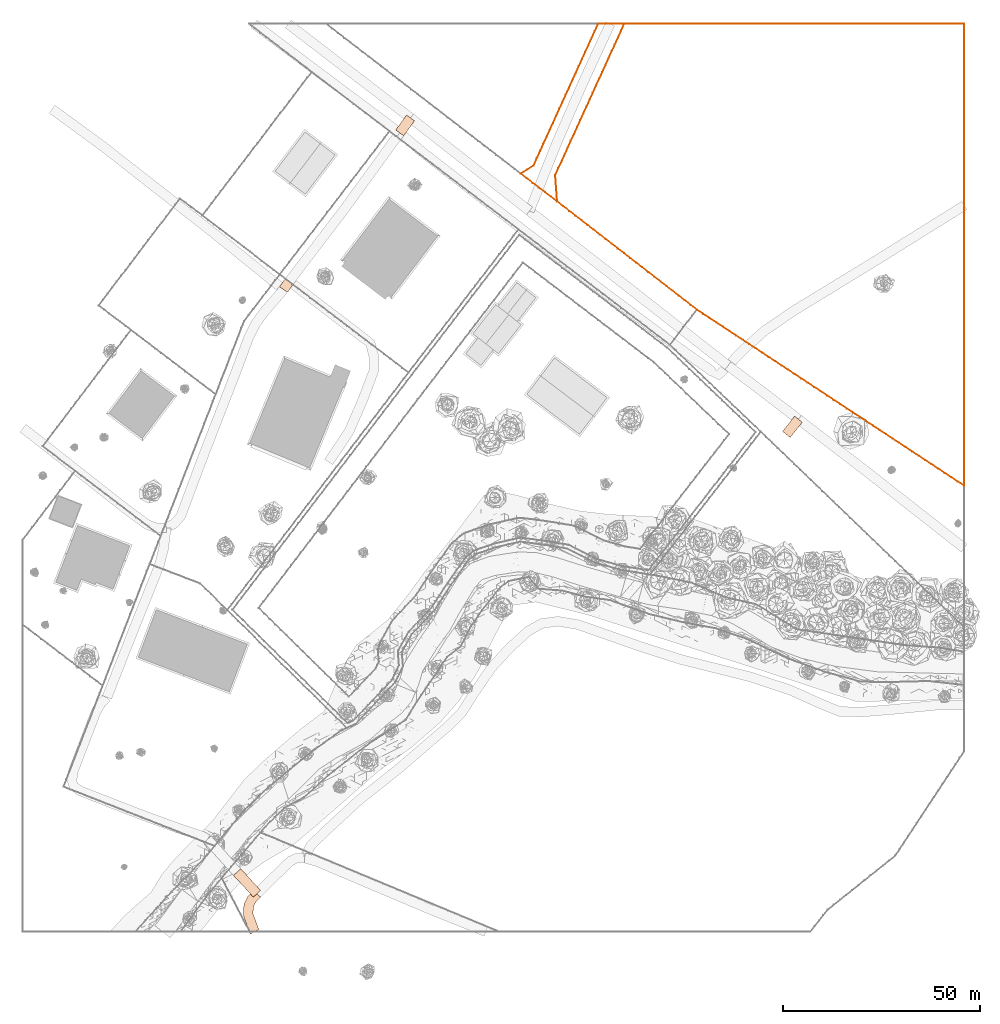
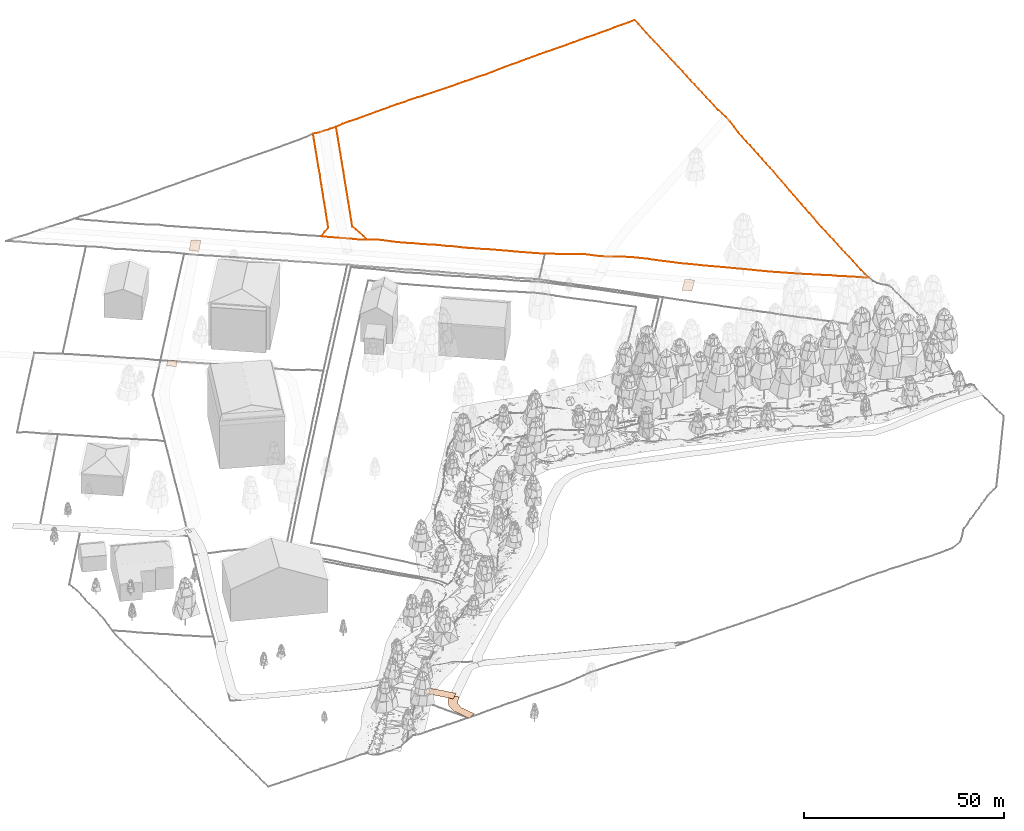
# Not in any storey, part 18 of 88: 7 geographic elements.
"""IFC4 model written with IfcOpenShell, lengths in metres."""

from ifc_helpers import new_model, entity, si_unit, origin_with_axes, place, context, subcontext, project, spatial, triangles, element, save


model = new_model("IFC4")

# Units and contexts
model_context = context("Model", 3, precision=1e-05, world=origin_with_axes())
body_context = subcontext(model_context, "Body", "Model", "MODEL_VIEW")
ifc_project = project(units=[si_unit("LENGTHUNIT", "METRE"), si_unit("AREAUNIT", "SQUARE_METRE"), si_unit("VOLUMEUNIT", "CUBIC_METRE"), si_unit("PLANEANGLEUNIT", "RADIAN")], contexts=[model_context])

# Sites
site_1_placement = place(None, origin_with_axes())
site_1 = spatial("IfcSite", under=ifc_project, at=site_1_placement, Name="CH907857693633", CompositionType="ELEMENT")
site_2_placement = place(None, origin_with_axes())
site_2 = spatial("IfcSite", under=site_1, at=site_2_placement, Name="Roads", CompositionType="ELEMENT")

# Geographic elements
geographic_element_1_placement = place(None, origin_with_axes())
element("IfcGeographicElement", 1, at=geographic_element_1_placement, inside=site_2, Name="Road_weg", ObjectType="ROAD", PredefinedType="USERDEFINED", context=body_context, shape_type="Tessellation", body=[
    triangles([(60.2144801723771, 8.79212709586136, 2.79353027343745), (58.9717636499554, 7.46151768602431, 2.7585571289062), (58.4063722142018, 6.37526942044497, 2.7734497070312), (58.3000586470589, 4.5524079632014, 2.79719238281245), (58.9993645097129, 2.70384467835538, 2.78022460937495), (59.755421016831, 0.62254000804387, 2.8263061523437), (59.7828784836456, 0.596204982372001, 2.8263061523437), (58.3775198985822, 10.4878797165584, 2.86665039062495), (56.9302364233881, 8.9044891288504, 2.82014160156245), (55.9716278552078, 6.9427373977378, 2.8191040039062), (55.8259414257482, 4.19359885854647, 2.85004882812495), (56.6496355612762, 1.85016214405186, 2.92426757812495), (57.4165790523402, -0.26053318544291, 2.89045410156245), (57.5855713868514, -0.596204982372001, 2.89045410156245)], [[1, 8, 2], [8, 9, 2], [2, 9, 3], [9, 10, 3], [3, 10, 4], [10, 11, 4], [4, 11, 5], [11, 12, 5], [5, 12, 6], [12, 13, 6], [6, 13, 7], [13, 14, 7]]),
])
geographic_element_2_placement = place(None, origin_with_axes())
element("IfcGeographicElement", 2, at=geographic_element_2_placement, inside=site_2, Name="Road_weg", ObjectType="ROAD", PredefinedType="USERDEFINED", context=body_context, shape_type="Tessellation", body=[
    triangles([(68.5043922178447, 164.080547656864, 8.2528198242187), (67.0543922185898, 161.994547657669, 8.24311523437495), (66.4516078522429, 165.507459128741, 8.2852905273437), (65.0016078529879, 163.421459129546, 8.2282836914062)], [[1, 3, 2], [3, 4, 2]]),
])
geographic_element_3_placement = place(None, origin_with_axes())
element("IfcGeographicElement", 3, at=geographic_element_3_placement, inside=site_2, Name="Road_weg", ObjectType="ROAD", PredefinedType="USERDEFINED", context=body_context, shape_type="Tessellation", body=[
    triangles([(197.459158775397, 129.067732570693, 8.9134643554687), (195.923158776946, 127.137232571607, 8.83503417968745), (194.387158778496, 125.206732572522, 8.95148925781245), (195.502841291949, 130.624274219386, 8.8873413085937), (193.966841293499, 128.693774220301, 8.8282592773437), (192.430841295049, 126.763274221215, 8.9338500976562)], [[1, 4, 2], [4, 5, 2], [2, 5, 3], [5, 6, 3]]),
])
geographic_element_4_placement = place(None, origin_with_axes())
element("IfcGeographicElement", 4, at=geographic_element_4_placement, inside=site_2, Name="Road_weg", ObjectType="ROAD", PredefinedType="USERDEFINED", context=body_context, shape_type="Tessellation", body=[
    triangles([(55.1692311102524, 15.9759790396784, 2.9625366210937), (56.8515644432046, 14.1459790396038, 3.0066040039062), (58.533897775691, 12.3159790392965, 2.9760864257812), (60.2162311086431, 10.485979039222, 2.84248046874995), (53.3287689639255, 14.2840277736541, 2.9447143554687), (55.0111022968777, 12.4540277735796, 2.9758422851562), (56.6934356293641, 10.6240277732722, 2.91840820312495), (58.3757689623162, 8.79402777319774, 2.8355834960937)], [[1, 5, 2], [5, 6, 2], [2, 6, 3], [6, 7, 3], [3, 7, 4], [7, 8, 4]]),
])
geographic_element_5_placement = place(None, origin_with_axes())
element("IfcGeographicElement", 5, at=geographic_element_5_placement, inside=site_2, Name="Road_weg", ObjectType="ROAD", PredefinedType="USERDEFINED", context=body_context, shape_type="Tessellation", body=[
    triangles([(99.2218642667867, 205.461088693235, 9.0283325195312), (97.8448642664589, 203.562588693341, 8.9677856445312), (96.4678642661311, 201.664088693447, 8.9395874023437), (97.1981358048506, 206.928918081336, 9.02961425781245), (95.8211358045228, 205.030418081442, 8.9871948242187), (94.444135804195, 203.131918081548, 8.97395019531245)], [[1, 4, 2], [4, 5, 2], [2, 5, 3], [5, 6, 3]]),
])

# Site
site_3_placement = place(None, origin_with_axes())
site_3 = spatial("IfcSite", under=site_1, at=site_3_placement, Name="Parcels", CompositionType="ELEMENT")

# Geographic elements
geographic_element_6_placement = place(None, origin_with_axes())
element("IfcGeographicElement", 6, at=geographic_element_6_placement, inside=site_3, Name="Parcel_CH345736786927", ObjectType="PARCEL", PredefinedType="USERDEFINED", context=body_context, shape_type="Curve3D", body=[
    entity("IfcIndexedPolyCurve", entity("IfcCartesianPointList3D", [[129.396514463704, 194.126146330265, 9.22297363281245], [130.213796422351, 195.919839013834, 9.31354980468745], [131.031078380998, 197.713531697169, 9.3653686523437], [131.84836033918, 199.507224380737, 9.4121215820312], [132.665642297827, 201.300917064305, 9.7314575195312], [133.482924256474, 203.094609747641, 9.63642578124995], [134.300206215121, 204.888302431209, 9.6823852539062], [135.117488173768, 206.681995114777, 9.72602539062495], [135.934770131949, 208.475687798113, 9.85529785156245], [136.752052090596, 210.269380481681, 9.86372070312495], [137.569334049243, 212.063073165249, 9.98066406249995], [138.386616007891, 213.856765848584, 10.1941040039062], [139.203897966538, 215.650458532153, 10.0755126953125], [140.021179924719, 217.444151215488, 10.064892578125], [140.838461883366, 219.237843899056, 10.01337890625], [141.655743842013, 221.031536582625, 10.209912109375], [142.47302580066, 222.82522926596, 10.1854370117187], [143.290307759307, 224.618921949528, 10.1939819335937], [144.107589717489, 226.412614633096, 10.2465942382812], [144.924871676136, 228.206307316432, 10.1999633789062], [145.742153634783, 230.0, 10.4211547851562], [147.398328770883, 230.0, 10.1325805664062], [149.054503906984, 230.0, 10.1242797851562], [150.710679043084, 230.0, 10.0964477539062], [152.366854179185, 230.0, 10.1820190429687], [151.571793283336, 228.256915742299, 10.1239135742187], [150.776732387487, 226.513831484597, 10.1397827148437], [149.981671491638, 224.770747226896, 10.0703857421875], [149.186610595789, 223.027662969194, 9.99482421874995], [148.39154969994, 221.284578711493, 10.003857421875], [147.596488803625, 219.541494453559, 9.96723632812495], [146.801427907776, 217.798410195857, 9.96088867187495], [146.006367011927, 216.055325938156, 9.9105346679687], [145.211306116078, 214.312241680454, 9.87080078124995], [144.416245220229, 212.569157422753, 9.88703613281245], [143.62118432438, 210.826073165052, 9.7834594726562], [142.826123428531, 209.08298890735, 9.8773315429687], [142.031062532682, 207.339904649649, 9.75446777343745], [141.236001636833, 205.596820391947, 9.72907714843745], [140.440940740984, 203.853736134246, 9.6884887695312], [139.645879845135, 202.110651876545, 9.61140136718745], [138.85081894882, 200.36756761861, 9.65791015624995], [138.055758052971, 198.624483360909, 9.57917480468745], [137.260697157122, 196.881399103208, 9.53681640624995], [136.465636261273, 195.138314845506, 9.44550781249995], [135.670575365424, 193.395230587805, 9.2581909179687], [134.875514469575, 191.652146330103, 9.11555175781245], [134.997764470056, 189.985646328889, 9.1473510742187], [135.120014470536, 188.319146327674, 9.20295410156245], [135.242264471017, 186.65264632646, 9.04548339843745], [135.364514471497, 184.986146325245, 9.0400512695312], [133.822681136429, 186.163146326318, 8.8088500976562], [132.280847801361, 187.340146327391, 8.8885620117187], [130.739014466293, 188.517146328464, 8.8979614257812], [129.197181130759, 189.69414632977, 8.91694335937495], [127.655347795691, 190.871146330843, 8.92731933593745], [126.113514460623, 192.048146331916, 8.94660644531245], [127.755014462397, 193.08714633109, 9.12421874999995], [129.396514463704, 194.126146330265, 9.22297363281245]]), None, False),
])
geographic_element_7_placement = place(None, origin_with_axes())
element("IfcGeographicElement", 7, at=geographic_element_7_placement, inside=site_3, Name="Parcel_CH945736786917", ObjectType="PARCEL", PredefinedType="USERDEFINED", context=body_context, shape_type="Curve3D", body=[
    entity("IfcIndexedPolyCurve", entity("IfcCartesianPointList3D", [[170.765514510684, 157.575146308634, 8.92451171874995], [169.226340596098, 158.766928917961, 8.88654785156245], [167.687166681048, 159.958711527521, 8.8801391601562], [166.147992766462, 161.150494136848, 8.87629394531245], [164.608818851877, 162.342276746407, 8.88154296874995], [163.069644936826, 163.534059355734, 8.92255859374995], [161.530471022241, 164.725841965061, 8.9288452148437], [159.991297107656, 165.91762457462, 8.95722656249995], [158.452123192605, 167.109407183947, 8.8735473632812], [156.912949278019, 168.301189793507, 8.8714721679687], [155.373775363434, 169.492972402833, 8.86542968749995], [153.834601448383, 170.68475501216, 8.8813598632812], [152.295427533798, 171.87653762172, 9.0153930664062], [150.756253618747, 173.068320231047, 8.93574218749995], [149.217079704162, 174.260102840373, 9.0489624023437], [147.677905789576, 175.451885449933, 8.9701049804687], [146.138731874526, 176.64366805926, 8.94611816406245], [144.59955795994, 177.835450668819, 8.97578124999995], [143.060384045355, 179.027233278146, 8.93317871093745], [141.521210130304, 180.219015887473, 8.9300659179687], [139.982036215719, 181.410798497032, 9.03315429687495], [138.442862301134, 182.602581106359, 9.19672851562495], [136.903688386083, 183.794363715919, 9.2286499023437], [135.364514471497, 184.986146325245, 9.0400512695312], [135.242264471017, 186.65264632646, 9.04548339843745], [135.120014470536, 188.319146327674, 9.20295410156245], [134.997764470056, 189.985646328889, 9.1473510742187], [134.875514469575, 191.652146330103, 9.11555175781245], [135.670575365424, 193.395230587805, 9.2581909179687], [136.465636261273, 195.138314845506, 9.44550781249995], [137.260697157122, 196.881399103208, 9.53681640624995], [138.055758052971, 198.624483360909, 9.57917480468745], [138.85081894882, 200.36756761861, 9.65791015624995], [139.645879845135, 202.110651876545, 9.61140136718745], [140.440940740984, 203.853736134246, 9.6884887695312], [141.236001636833, 205.596820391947, 9.72907714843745], [142.031062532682, 207.339904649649, 9.75446777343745], [142.826123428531, 209.08298890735, 9.8773315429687], [143.62118432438, 210.826073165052, 9.7834594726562], [144.416245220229, 212.569157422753, 9.88703613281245], [145.211306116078, 214.312241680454, 9.87080078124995], [146.006367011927, 216.055325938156, 9.9105346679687], [146.801427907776, 217.798410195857, 9.96088867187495], [147.596488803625, 219.541494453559, 9.96723632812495], [148.39154969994, 221.284578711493, 10.003857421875], [149.186610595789, 223.027662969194, 9.99482421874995], [149.981671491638, 224.770747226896, 10.0703857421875], [150.776732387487, 226.513831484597, 10.1397827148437], [151.571793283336, 228.256915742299, 10.1239135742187], [152.366854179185, 230.0, 10.1820190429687], [154.324425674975, 230.0, 10.3912475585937], [156.281997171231, 230.0, 10.4347045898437], [158.239568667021, 230.0, 10.4502075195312], [160.197140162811, 230.0, 10.5091064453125], [162.154711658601, 230.0, 10.5943115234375], [164.112283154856, 230.0, 10.6662719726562], [166.069854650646, 230.0, 10.7130249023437], [168.027426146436, 230.0, 10.8046997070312], [169.984997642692, 230.0, 10.821484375], [171.942569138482, 230.0, 10.8403442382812], [173.900140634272, 230.0, 10.9408081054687], [175.857712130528, 230.0, 10.8833740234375], [177.815283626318, 230.0, 10.83369140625], [179.772855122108, 230.0, 10.8614624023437], [181.730426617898, 230.0, 10.8557861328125], [183.687998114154, 230.0, 10.86640625], [185.645569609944, 230.0, 10.9025390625], [187.603141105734, 230.0, 10.9220092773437], [189.56071260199, 230.0, 11.009228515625], [191.51828409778, 230.0, 10.9678466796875], [193.47585559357, 230.0, 11.0574462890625], [195.433427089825, 230.0, 11.0228393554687], [197.390998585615, 230.0, 11.0816772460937], [199.348570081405, 230.0, 11.28193359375], [201.306141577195, 230.0, 11.3514526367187], [203.263713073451, 230.0, 11.4199340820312], [205.221284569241, 230.0, 11.4670532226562], [207.178856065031, 230.0, 11.55537109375], [209.136427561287, 230.0, 11.6555908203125], [211.093999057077, 230.0, 11.6935546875], [213.051570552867, 230.0, 11.7527587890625], [215.009142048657, 230.0, 11.7815063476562], [216.966713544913, 230.0, 11.7863891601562], [218.924285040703, 230.0, 11.8545043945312], [220.881856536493, 230.0, 11.9026000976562], [222.839428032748, 230.0, 12.0476806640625], [224.796999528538, 230.0, 12.06171875], [226.754571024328, 230.0, 12.0903442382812], [228.712142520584, 230.0, 12.1790283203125], [230.669714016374, 230.0, 12.1949584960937], [232.627285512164, 230.0, 12.36298828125], [234.584857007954, 230.0, 12.3711059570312], [236.54242850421, 230.0, 12.4671142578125], [238.5, 230.0, 12.5724609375], [238.5, 228.016235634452, 12.4353149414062], [238.5, 226.032471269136, 12.3061645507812], [238.5, 224.048706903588, 12.1577270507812], [238.5, 222.06494253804, 12.0199096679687], [238.5, 220.081178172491, 12.0000732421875], [238.5, 218.097413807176, 11.9189575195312], [238.5, 216.113649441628, 11.8076904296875], [238.5, 214.12988507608, 11.7197998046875], [238.5, 212.146120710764, 11.5859497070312], [238.5, 210.162356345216, 11.5664184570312], [238.5, 208.178591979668, 11.4656494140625], [238.5, 206.194827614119, 11.351025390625], [238.5, 204.211063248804, 11.2263305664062], [238.5, 202.227298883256, 11.1009643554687], [238.5, 200.243534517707, 10.9765747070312], [238.5, 198.259770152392, 10.911083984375], [238.5, 196.276005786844, 10.8008544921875], [238.5, 194.292241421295, 10.6914794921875], [238.5, 192.308477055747, 10.62421875], [238.5, 190.324712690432, 10.5186279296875], [238.5, 188.340948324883, 10.389111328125], [238.5, 186.357183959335, 10.4936645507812], [238.5, 184.37341959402, 10.5491455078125], [238.5, 182.389655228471, 10.4829223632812], [238.5, 180.405890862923, 10.0789916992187], [238.5, 178.422126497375, 9.6451538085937], [238.5, 176.438362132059, 9.4484985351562], [238.5, 174.454597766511, 9.3155639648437], [238.5, 172.470833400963, 9.2386596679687], [238.5, 170.487069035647, 9.1176879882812], [238.5, 168.503304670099, 8.93342285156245], [238.5, 166.519540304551, 8.8066528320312], [238.5, 164.535775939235, 8.64289550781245], [238.5, 162.552011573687, 8.4870727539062], [238.5, 160.568247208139, 8.4065063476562], [238.5, 158.584482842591, 8.15571289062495], [238.5, 156.600718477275, 7.88923339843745], [238.5, 154.616954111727, 7.74653320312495], [238.5, 152.633189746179, 7.5169799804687], [238.5, 150.649425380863, 7.32648925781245], [238.5, 148.665661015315, 7.1324584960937], [238.5, 146.681896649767, 6.9183471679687], [238.5, 144.698132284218, 6.7390258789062], [238.5, 142.714367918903, 6.53217773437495], [238.5, 140.730603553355, 6.37458496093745], [238.5, 138.746839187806, 6.15644531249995], [238.5, 136.763074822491, 5.99604492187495], [238.5, 134.779310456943, 5.8778198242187], [238.5, 132.795546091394, 5.80732421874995], [238.5, 130.811781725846, 5.6964233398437], [238.5, 128.828017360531, 5.5711791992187], [238.5, 126.844252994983, 5.4176147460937], [238.5, 124.860488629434, 5.35761718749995], [238.5, 122.876724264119, 5.2992065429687], [238.5, 120.892959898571, 5.1815307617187], [238.5, 118.909195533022, 5.0196655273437], [238.5, 116.925431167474, 4.9392211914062], [238.5, 114.941666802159, 4.9095581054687], [238.5, 112.95790243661, 4.9128540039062], [236.847939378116, 114.046127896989, 5.00239257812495], [235.195878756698, 115.134353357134, 5.1026733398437], [233.543818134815, 116.222578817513, 5.13911132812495], [231.891757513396, 117.310804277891, 5.1772583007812], [230.239696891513, 118.399029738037, 5.3335083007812], [228.587636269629, 119.487255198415, 5.32416992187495], [226.935575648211, 120.575480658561, 5.38032226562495], [225.283515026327, 121.663706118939, 5.4034545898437], [223.631454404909, 122.751931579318, 5.4636352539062], [221.979393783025, 123.840157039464, 5.56208496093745], [220.327333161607, 124.928382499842, 5.6502807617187], [218.675272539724, 126.01660796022, 5.73164062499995], [217.02321191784, 127.104833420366, 5.85139160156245], [215.371151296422, 128.193058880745, 5.9809692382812], [213.719090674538, 129.281284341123, 6.1626098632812], [212.06703005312, 130.369509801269, 6.32331542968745], [210.414969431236, 131.457735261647, 6.45344238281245], [208.762908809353, 132.545960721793, 6.61249999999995], [207.110848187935, 133.634186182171, 6.73383789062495], [205.458787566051, 134.72241164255, 6.8612182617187], [203.806726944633, 135.810637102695, 6.97187499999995], [202.154666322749, 136.898862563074, 7.17402343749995], [200.502605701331, 137.987088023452, 7.3128784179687], [198.850545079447, 139.075313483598, 7.4394653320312], [197.198484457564, 140.163538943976, 7.68159179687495], [195.546423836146, 141.251764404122, 7.9139526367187], [193.894363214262, 142.3399898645, 8.13544921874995], [192.242302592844, 143.428215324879, 8.42915039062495], [190.59024197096, 144.516440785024, 8.61457519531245], [188.938181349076, 145.604666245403, 8.76936035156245], [187.286120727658, 146.692891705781, 8.81452636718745], [185.634060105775, 147.781117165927, 8.7087524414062], [183.981999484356, 148.869342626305, 8.70930175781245], [182.329938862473, 149.957568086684, 8.7356079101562], [180.677878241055, 151.045793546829, 8.9670532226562], [179.025817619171, 152.134019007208, 9.17438964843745], [177.373756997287, 153.222244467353, 9.0946166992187], [175.721696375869, 154.310469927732, 9.03754882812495], [174.069635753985, 155.39869538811, 9.0239379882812], [172.417575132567, 156.486920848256, 8.97187499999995], [170.765514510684, 157.575146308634, 8.92451171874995]]), None, False),
])

save(model, "model.ifc")
